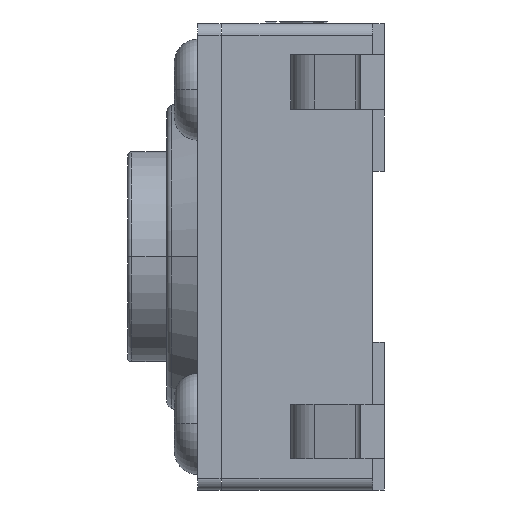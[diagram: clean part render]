
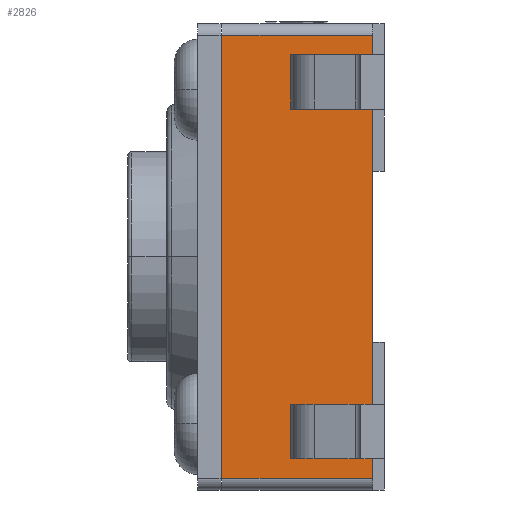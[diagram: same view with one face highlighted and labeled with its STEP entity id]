
A CAD part, left-side view. The second image highlights one B-rep face of the part: STEP entity #2826.
In plain terms, the highlighted planar face has unit normal (-1, 0, 0).
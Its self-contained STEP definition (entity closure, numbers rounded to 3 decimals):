
#292=DIRECTION('',(0.,0.,1.));
#293=VECTOR('',#292,5.7);
#294=CARTESIAN_POINT('',(-3.,0.15,-2.85));
#295=LINE('',#294,#293);
#442=DIRECTION('',(0.,0.,-1.));
#443=VECTOR('',#442,5.7);
#444=CARTESIAN_POINT('',(-3.,2.09,2.85));
#445=LINE('',#444,#443);
#543=DIRECTION('',(0.,1.,0.));
#544=VECTOR('',#543,1.94);
#545=CARTESIAN_POINT('',(-3.,0.15,2.85));
#546=LINE('',#545,#544);
#551=DIRECTION('',(0.,1.,0.));
#552=VECTOR('',#551,0.3);
#553=CARTESIAN_POINT('',(-3.,0.9,-1.9));
#554=LINE('',#553,#552);
#555=DIRECTION('',(0.,0.,-1.));
#556=VECTOR('',#555,0.7);
#557=CARTESIAN_POINT('',(-3.,1.2,-1.9));
#558=LINE('',#557,#556);
#559=DIRECTION('',(0.,-1.,0.));
#560=VECTOR('',#559,0.3);
#561=CARTESIAN_POINT('',(-3.,1.2,-2.6));
#562=LINE('',#561,#560);
#563=DIRECTION('',(0.,0.,1.));
#564=VECTOR('',#563,0.7);
#565=CARTESIAN_POINT('',(-3.,0.9,-2.6));
#566=LINE('',#565,#564);
#571=DIRECTION('',(0.,-1.,0.));
#572=VECTOR('',#571,1.94);
#573=CARTESIAN_POINT('',(-3.,2.09,-2.85));
#574=LINE('',#573,#572);
#739=DIRECTION('',(0.,1.,0.));
#740=VECTOR('',#739,0.3);
#741=CARTESIAN_POINT('',(-3.,0.9,1.9));
#742=LINE('',#741,#740);
#747=DIRECTION('',(0.,0.,1.));
#748=VECTOR('',#747,0.7);
#749=CARTESIAN_POINT('',(-3.,1.2,1.9));
#750=LINE('',#749,#748);
#755=DIRECTION('',(0.,-1.,0.));
#756=VECTOR('',#755,0.3);
#757=CARTESIAN_POINT('',(-3.,1.2,2.6));
#758=LINE('',#757,#756);
#795=DIRECTION('',(0.,0.,-1.));
#796=VECTOR('',#795,0.7);
#797=CARTESIAN_POINT('',(-3.,0.9,2.6));
#798=LINE('',#797,#796);
#1649=CARTESIAN_POINT('',(-3.,1.2,-1.9));
#1651=VERTEX_POINT('',#1649);
#1654=CARTESIAN_POINT('',(-3.,0.9,-1.9));
#1656=VERTEX_POINT('',#1654);
#1677=CARTESIAN_POINT('',(-3.,1.2,-2.6));
#1678=VERTEX_POINT('',#1677);
#1691=CARTESIAN_POINT('',(-3.,0.9,-2.6));
#1692=VERTEX_POINT('',#1691);
#1693=CARTESIAN_POINT('',(-3.,0.15,-2.85));
#1694=CARTESIAN_POINT('',(-3.,0.15,2.85));
#1695=VERTEX_POINT('',#1693);
#1696=VERTEX_POINT('',#1694);
#1697=CARTESIAN_POINT('',(-3.,2.09,-2.85));
#1698=VERTEX_POINT('',#1697);
#1699=CARTESIAN_POINT('',(-3.,2.09,2.85));
#1700=VERTEX_POINT('',#1699);
#1701=CARTESIAN_POINT('',(-3.,0.9,1.9));
#1702=CARTESIAN_POINT('',(-3.,1.2,1.9));
#1703=VERTEX_POINT('',#1701);
#1704=VERTEX_POINT('',#1702);
#1705=CARTESIAN_POINT('',(-3.,0.9,2.6));
#1706=VERTEX_POINT('',#1705);
#1707=CARTESIAN_POINT('',(-3.,1.2,2.6));
#1708=VERTEX_POINT('',#1707);
#2794=CARTESIAN_POINT('',(-3.,1.12,0.));
#2795=DIRECTION('',(1.,0.,0.));
#2796=DIRECTION('',(0.,0.,1.));
#2797=AXIS2_PLACEMENT_3D('',#2794,#2795,#2796);
#2798=PLANE('',#2797);
#2799=ORIENTED_EDGE('',*,*,#2419,.F.);
#2801=ORIENTED_EDGE('',*,*,#2800,.F.);
#2802=ORIENTED_EDGE('',*,*,#2665,.F.);
#2803=ORIENTED_EDGE('',*,*,#2787,.F.);
#2804=EDGE_LOOP('',(#2799,#2801,#2802,#2803));
#2805=FACE_OUTER_BOUND('',#2804,.F.);
#2807=ORIENTED_EDGE('',*,*,#2806,.T.);
#2809=ORIENTED_EDGE('',*,*,#2808,.T.);
#2811=ORIENTED_EDGE('',*,*,#2810,.T.);
#2813=ORIENTED_EDGE('',*,*,#2812,.T.);
#2814=EDGE_LOOP('',(#2807,#2809,#2811,#2813));
#2815=FACE_BOUND('',#2814,.F.);
#2817=ORIENTED_EDGE('',*,*,#2816,.F.);
#2819=ORIENTED_EDGE('',*,*,#2818,.F.);
#2821=ORIENTED_EDGE('',*,*,#2820,.F.);
#2823=ORIENTED_EDGE('',*,*,#2822,.F.);
#2824=EDGE_LOOP('',(#2817,#2819,#2821,#2823));
#2825=FACE_BOUND('',#2824,.F.);
#2419=EDGE_CURVE('',#1695,#1696,#295,.T.);
#2665=EDGE_CURVE('',#1700,#1698,#445,.T.);
#2787=EDGE_CURVE('',#1696,#1700,#546,.T.);
#2800=EDGE_CURVE('',#1698,#1695,#574,.T.);
#2806=EDGE_CURVE('',#1656,#1651,#554,.T.);
#2808=EDGE_CURVE('',#1651,#1678,#558,.T.);
#2810=EDGE_CURVE('',#1678,#1692,#562,.T.);
#2812=EDGE_CURVE('',#1692,#1656,#566,.T.);
#2816=EDGE_CURVE('',#1703,#1704,#742,.T.);
#2818=EDGE_CURVE('',#1706,#1703,#798,.T.);
#2820=EDGE_CURVE('',#1708,#1706,#758,.T.);
#2822=EDGE_CURVE('',#1704,#1708,#750,.T.);
#2826=ADVANCED_FACE('',(#2805,#2815,#2825),#2798,.F.);
